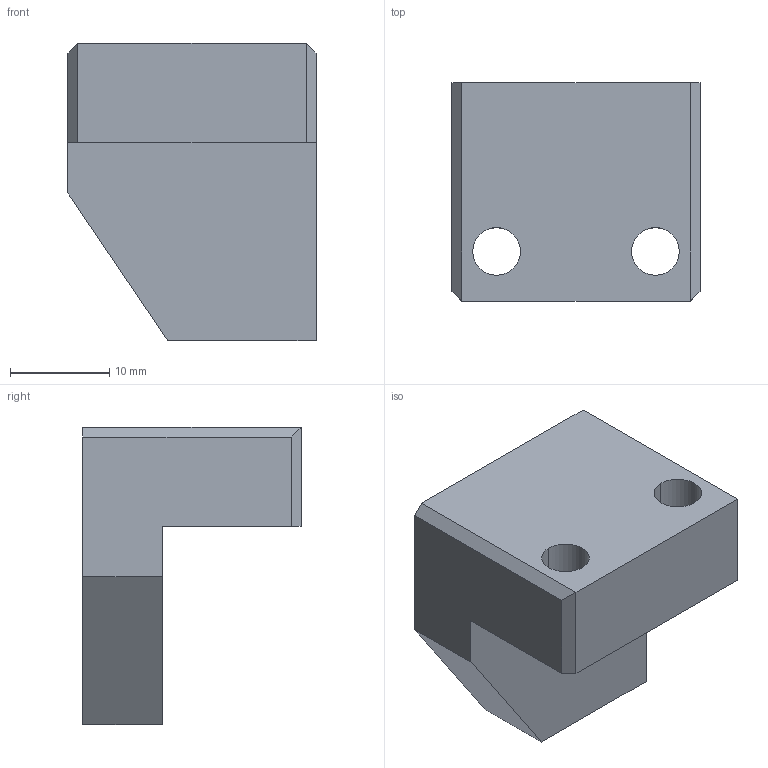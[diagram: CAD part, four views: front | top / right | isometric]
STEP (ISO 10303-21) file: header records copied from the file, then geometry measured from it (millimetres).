
FILE_DESCRIPTION (( 'STEP AP214' ), '1' );
FILE_NAME ('GZ29.11_V1顶块.STEP', '2021-07-06T07:32:23', ( '微软中国' ), ( 'Microsoft' ), 'SwSTEP 2.0', 'SolidWorks 2017', '' );
FILE_SCHEMA (( 'AUTOMOTIVE_DESIGN' ));
Length unit declared in the file: millimetre
Products named in the file (1): GZ29.11_V1階輸
Bounding box: 25 x 22 x 30 mm (x, y, z)
Volume: 8211.8 mm3; surface area: 3435.8 mm2
Topology: 1 solids, 1 shells, 23 faces, 55 edges, 36 vertices
Faces by surface type: plane 15, cylinder 8
Entity records: 711 total; most frequent: DIRECTION 119, CARTESIAN_POINT 115, ORIENTED_EDGE 110, EDGE_CURVE 55, AXIS2_PLACEMENT_3D 40, LINE 39, VECTOR 39, VERTEX_POINT 36
